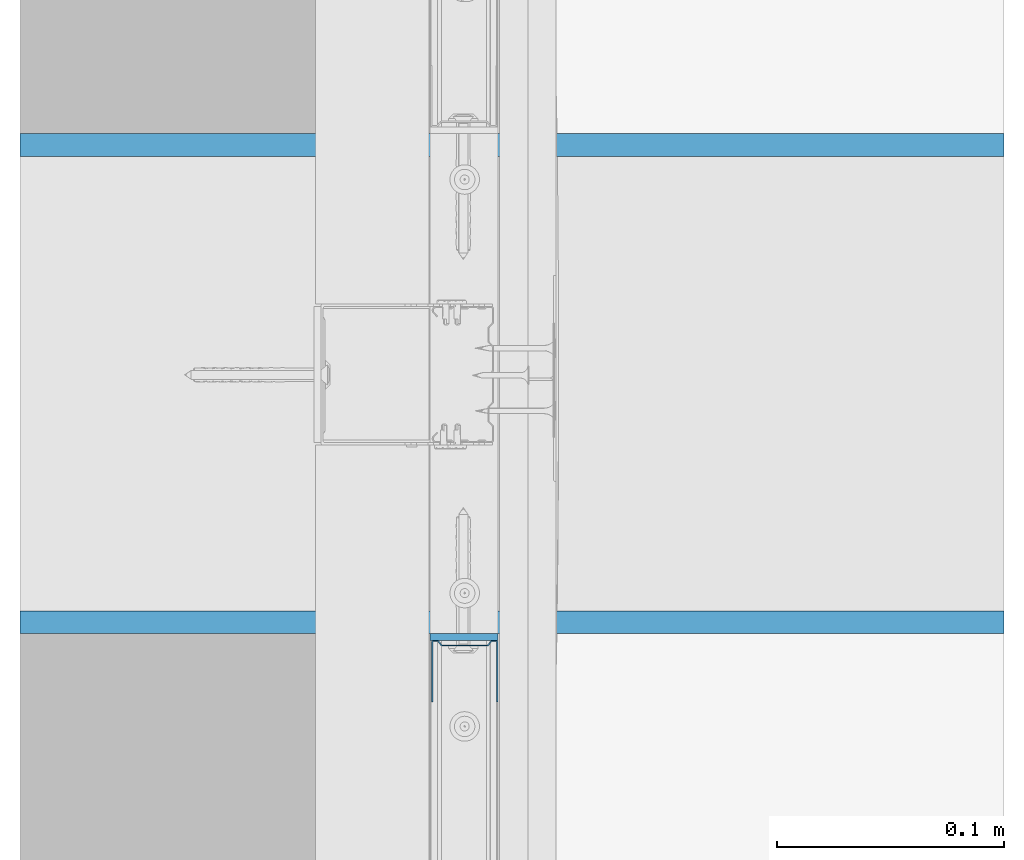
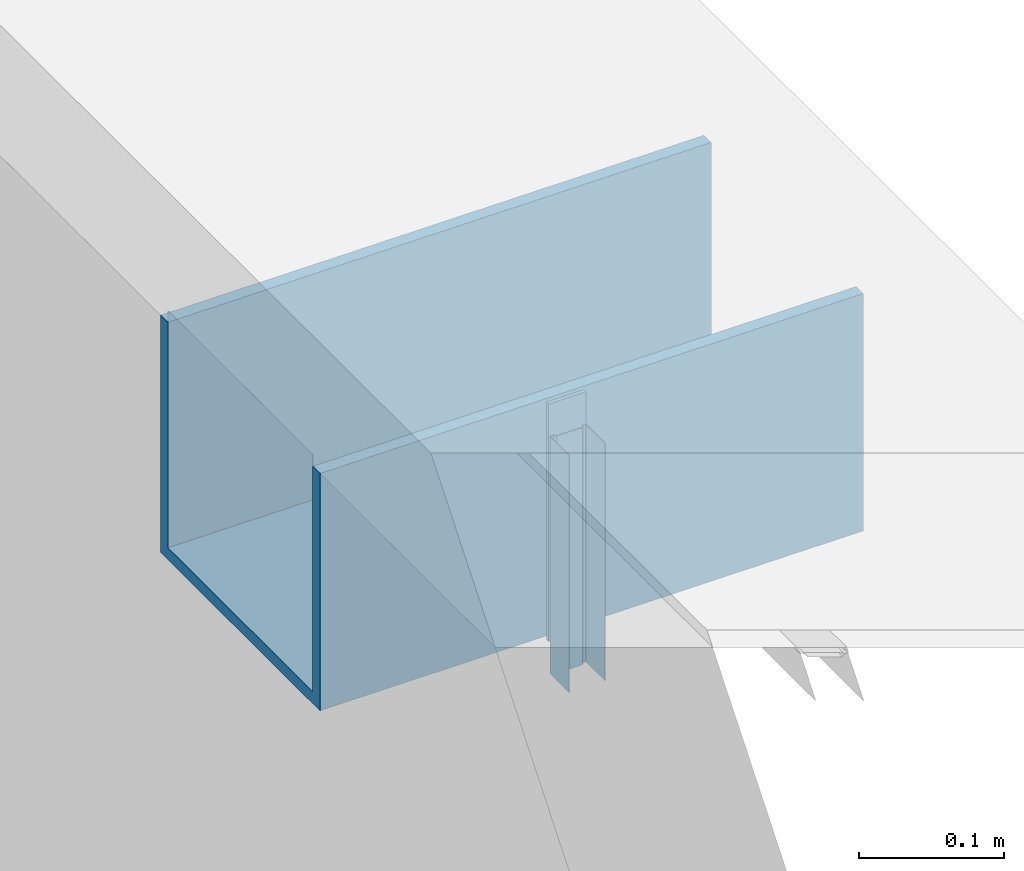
# One storey, part 8 of 67: 3 walls.
"""IFC2X3 building model written with IfcOpenShell, lengths in millimetres."""

from ifc_helpers import new_model, si_unit, frame, origin_with_axes, place, context, subcontext, project, spatial, faceted_brep, material, type_object, element, save


model = new_model("IFC2X3")

# Units and contexts
model_context = context("Model", 3, world=origin_with_axes())
body_context = subcontext(model_context, "Body", "Model", "MODEL_VIEW")
ifc_project = project(units=[si_unit("LENGTHUNIT", "METRE", prefix="MILLI"), si_unit("AREAUNIT", "SQUARE_METRE"), si_unit("VOLUMEUNIT", "CUBIC_METRE")], contexts=[model_context])

# Site, building, storey
site_placement = place(None, frame((2152.14102611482, 674.9749105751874, 57.61556563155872), z_axis=(0.0, 0.0, 1.0), x_axis=(-1.1102230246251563e-16, 1.0, 0.0)))
site = spatial("IfcSite", under=ifc_project, at=site_placement, Name="Default Site", CompositionType="ELEMENT")
building_placement = place(site_placement, origin_with_axes())
building = spatial("IfcBuilding", under=site, at=building_placement, Name="Default Building", CompositionType="ELEMENT")
storey_placement = place(building_placement, origin_with_axes())
storey = spatial("IfcBuildingStorey", under=building, at=storey_placement, Name="Default Building Storey", CompositionType="ELEMENT", Elevation=57.61556563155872)

# Walls
ifc_material_1 = material(Name="Undefined9")
wall_type_1 = type_object("IfcWallType", Name="Profil RIGIPS UD 30 GypSerra®/Ultrastil®#5", PredefinedType="NOTDEFINED")
wall_1_placement = place(storey_placement, frame((2835.0000862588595, 472.4603158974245, -435.7900374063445), z_axis=(-1.0, 6.86003722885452e-13, -6.065981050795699e-14), x_axis=(-6.065981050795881e-14, -2.646298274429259e-15, 1.0)))
element("IfcWall", 1, at=wall_1_placement, inside=storey, type_object=wall_type_1, material=ifc_material_1, Name="Profil RIGIPS UD 30 GypSerra®/Ultrastil®", context=body_context, shape_type="Brep", body=[
    faceted_brep([(2926.1740592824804, 1469.9159860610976, 140.9749984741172), (2926.1740592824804, 1469.3660736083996, 140.97499847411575), (2926.174059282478, 1469.3660736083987, 114.77500200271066), (2926.174059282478, 1469.3758487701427, 114.64985460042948), (2926.174059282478, 1469.405174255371, 114.52778428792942), (2926.174059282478, 1469.4532155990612, 114.41180855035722), (2926.174059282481, 1469.5187807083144, 114.30477350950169), (2926.174059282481, 1469.6003198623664, 114.20931667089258), (2926.1740592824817, 1469.6958065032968, 114.12778496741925), (2926.1740592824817, 1469.8028564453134, 114.06219750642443), (2926.1740592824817, 1469.9188470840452, 114.01415616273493), (2926.1740592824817, 1470.0409173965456, 113.98485302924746), (2926.1740592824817, 1470.1660871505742, 113.97500336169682), (2926.1740592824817, 1472.015976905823, 113.97500336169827), (2926.1740592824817, 1472.163558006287, 113.98871988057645), (2926.1740592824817, 1472.3060131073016, 114.02940750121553), (2926.1740592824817, 1472.4385738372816, 114.09565806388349), (2926.174059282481, 1472.5565910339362, 114.18521404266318), (2926.1740592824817, 1472.6560115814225, 114.29499834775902), (2926.1740592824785, 1473.6760854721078, 115.65499752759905), (2926.1740592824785, 1473.7755060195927, 115.76478183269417), (2926.1740592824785, 1473.8935232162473, 115.85433781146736), (2926.1740592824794, 1474.026083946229, 115.92059582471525), (2926.1740592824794, 1474.1685390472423, 115.96128344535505), (2926.1740592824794, 1474.3160009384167, 115.97499996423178), (2926.1740592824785, 1493.6159849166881, 115.97499996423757), (2926.1740592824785, 1493.7635660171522, 115.96128344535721), (2926.1740592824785, 1493.9060211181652, 115.9205958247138), (2926.1740592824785, 1494.038581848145, 115.85433781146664), (2926.1740592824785, 1494.1565990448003, 115.76478183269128), (2926.1740592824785, 1494.2560195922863, 115.65499752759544), (2926.1740592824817, 1495.2759742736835, 114.29499834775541), (2926.1740592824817, 1495.3755140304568, 114.18521404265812), (2926.1740592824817, 1495.4935312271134, 114.09565806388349), (2926.1740592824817, 1495.626091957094, 114.02940750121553), (2926.1740592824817, 1495.7685470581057, 113.98871988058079), (2926.1740592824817, 1495.9160089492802, 113.97500336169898), (2926.1740592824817, 1497.7660179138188, 113.97500336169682), (2926.1740592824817, 1497.8911876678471, 113.98485302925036), (2926.1740592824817, 1498.0132579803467, 114.01415616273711), (2926.1740592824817, 1498.1292486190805, 114.06219750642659), (2926.1740592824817, 1498.2362985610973, 114.12778496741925), (2926.1740592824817, 1498.3316659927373, 114.20931667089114), (2926.1740592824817, 1498.4132051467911, 114.3047735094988), (2926.1740592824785, 1498.478889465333, 114.41180855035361), (2926.1740592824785, 1498.5269308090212, 114.52778428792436), (2926.1740592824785, 1498.556137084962, 114.64985460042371), (2926.174059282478, 1498.566031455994, 114.77500200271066), (2926.174059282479, 1498.5660314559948, 140.97499847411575), (2926.174059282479, 1498.0159997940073, 140.97499847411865), (2926.174059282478, 1498.0159997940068, 114.77500200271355), (2926.1740592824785, 1498.0129003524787, 114.7358939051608), (2926.1740592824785, 1498.003840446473, 114.69774693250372), (2926.1740592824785, 1497.98882007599, 114.6614998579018), (2926.1740592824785, 1497.9683160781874, 114.62805420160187), (2926.1740592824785, 1497.9428052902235, 114.59822207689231), (2926.1740592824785, 1497.9130029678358, 114.57274854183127), (2926.1740592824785, 1497.8795051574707, 114.55225199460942), (2926.1740592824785, 1497.8432655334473, 114.53723907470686), (2926.1740592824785, 1497.8051185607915, 114.52807486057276), (2926.1740592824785, 1497.7660179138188, 114.5249977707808), (2926.1740592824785, 1495.9160089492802, 114.52499777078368), (2926.1740592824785, 1495.869874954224, 114.5292893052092), (2926.1740592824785, 1495.8254098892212, 114.5419999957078), (2926.1740592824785, 1495.7840442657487, 114.56270515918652), (2926.1740592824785, 1495.7470893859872, 114.5906895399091), (2926.1740592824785, 1495.715975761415, 114.62499946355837), (2926.1740592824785, 1494.6960210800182, 115.98499864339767), (2926.1740592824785, 1494.5281744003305, 116.17025732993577), (2926.1740592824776, 1494.328975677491, 116.32138490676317), (2926.1740592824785, 1494.1053390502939, 116.43319576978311), (2926.1740592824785, 1493.8650131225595, 116.50185286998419), (2926.1740592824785, 1493.6159849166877, 116.52500182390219), (2926.174059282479, 1474.3160009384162, 116.52500182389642), (2926.174059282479, 1474.0670919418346, 116.50185286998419), (2926.174059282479, 1473.8266468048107, 116.43319576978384), (2926.174059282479, 1473.6031293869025, 116.32138490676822), (2926.174059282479, 1473.4039306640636, 116.17025732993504), (2926.1740592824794, 1473.2360839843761, 115.98499864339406), (2926.174059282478, 1472.21601009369, 114.6249994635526), (2926.174059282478, 1472.1848964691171, 114.59068953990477), (2926.174059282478, 1472.1480607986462, 114.56270515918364), (2926.174059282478, 1472.1066951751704, 114.54199999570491), (2926.174059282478, 1472.062110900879, 114.52928930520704), (2926.174059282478, 1472.0159769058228, 114.52499777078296), (2926.174059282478, 1470.166087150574, 114.5249977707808), (2926.174059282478, 1470.1268672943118, 114.52807486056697), (2926.174059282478, 1470.0887203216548, 114.53723907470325), (2926.174059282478, 1470.0524806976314, 114.55225199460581), (2926.174059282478, 1470.0191020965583, 114.57274854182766), (2926.174059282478, 1469.9892997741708, 114.59822207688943), (2926.174059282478, 1469.9637889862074, 114.62805420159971), (2926.174059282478, 1469.9432849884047, 114.66149985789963), (2926.174059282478, 1469.9282646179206, 114.697746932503), (2926.174059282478, 1469.9190855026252, 114.73589390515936), (2926.174059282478, 1469.9159860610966, 114.77500200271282), (2726.1740592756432, 1469.3660736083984, 114.77500200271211), (2726.174059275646, 1469.3660736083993, 140.9749984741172), (2726.174059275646, 1469.915986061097, 140.9749984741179), (2726.1740592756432, 1469.9159860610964, 114.77500200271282), (2726.1740592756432, 1469.9190855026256, 114.73589390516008), (2726.1740592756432, 1469.9282646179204, 114.697746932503), (2726.1740592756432, 1469.9432849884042, 114.66149985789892), (2726.1740592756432, 1469.9637889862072, 114.62805420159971), (2726.1740592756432, 1469.9892997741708, 114.59822207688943), (2726.1740592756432, 1470.0191020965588, 114.57274854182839), (2726.1740592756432, 1470.052480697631, 114.55225199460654), (2726.1740592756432, 1470.0887203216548, 114.53723907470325), (2726.1740592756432, 1470.126867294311, 114.52807486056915), (2726.1740592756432, 1470.1660871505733, 114.52499777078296), (2726.1740592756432, 1472.015976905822, 114.52499777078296), (2726.1740592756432, 1472.0621109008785, 114.52928930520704), (2726.1740592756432, 1472.1066951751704, 114.54199999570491), (2726.1740592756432, 1472.1480607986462, 114.56270515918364), (2726.1740592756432, 1472.1848964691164, 114.59068953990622), (2726.1740592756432, 1472.2160100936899, 114.62499946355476), (2726.1740592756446, 1473.236083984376, 115.98499864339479), (2726.174059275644, 1473.403930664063, 116.17025732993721), (2726.1740592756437, 1473.6031293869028, 116.32138490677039), (2726.1740592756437, 1473.8266468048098, 116.43319576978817), (2726.1740592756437, 1474.0670919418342, 116.5018528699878), (2726.1740592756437, 1474.3160009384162, 116.52500182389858), (2726.174059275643, 1493.6159849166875, 116.52500182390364), (2726.174059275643, 1493.8650131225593, 116.50185286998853), (2726.174059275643, 1494.1053390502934, 116.43319576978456), (2726.1740592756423, 1494.328975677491, 116.32138490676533), (2726.1740592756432, 1494.5281744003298, 116.17025732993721), (2726.174059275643, 1494.6960210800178, 115.98499864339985), (2726.174059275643, 1495.7159757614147, 114.62499946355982), (2726.174059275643, 1495.747089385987, 114.59068953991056), (2726.174059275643, 1495.784044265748, 114.56270515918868), (2726.174059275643, 1495.8254098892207, 114.54199999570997), (2726.174059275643, 1495.8698749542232, 114.52928930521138), (2726.174059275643, 1495.9160089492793, 114.5249977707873), (2726.174059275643, 1497.766017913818, 114.52499777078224), (2726.174059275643, 1497.8051185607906, 114.5280748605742), (2726.174059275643, 1497.8432655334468, 114.53723907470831), (2726.174059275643, 1497.8795051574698, 114.55225199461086), (2726.174059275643, 1497.9130029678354, 114.57274854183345), (2726.174059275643, 1497.9428052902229, 114.59822207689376), (2726.174059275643, 1497.9683160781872, 114.62805420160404), (2726.174059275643, 1497.9888200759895, 114.66149985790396), (2726.174059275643, 1498.0038404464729, 114.69774693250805), (2726.174059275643, 1498.0129003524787, 114.73589390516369), (2726.174059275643, 1498.015999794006, 114.77500200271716), (2726.1740592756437, 1498.015999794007, 140.97499847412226), (2726.1740592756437, 1498.5660314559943, 140.9749984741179), (2726.174059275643, 1498.5660314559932, 114.77500200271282), (2726.174059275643, 1498.5561370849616, 114.64985460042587), (2726.174059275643, 1498.5269308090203, 114.52778428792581), (2726.174059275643, 1498.4788894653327, 114.41180855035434), (2726.174059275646, 1498.4132051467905, 114.3047735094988), (2726.174059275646, 1498.3316659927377, 114.20931667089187), (2726.174059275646, 1498.2362985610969, 114.1277849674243), (2726.174059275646, 1498.12924861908, 114.0621975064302), (2726.1740592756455, 1498.013257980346, 114.01415616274), (2726.1740592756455, 1497.8911876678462, 113.98485302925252), (2726.1740592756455, 1497.7660179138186, 113.97500336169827), (2726.1740592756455, 1495.91600894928, 113.97500336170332), (2726.1740592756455, 1495.7685470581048, 113.98871988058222), (2726.1740592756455, 1495.6260919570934, 114.02940750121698), (2726.174059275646, 1495.4935312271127, 114.09565806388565), (2726.174059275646, 1495.375514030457, 114.18521404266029), (2726.174059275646, 1495.2759742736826, 114.29499834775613), (2726.174059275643, 1494.2560195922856, 115.65499752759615), (2726.174059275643, 1494.1565990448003, 115.76478183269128), (2726.174059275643, 1494.038581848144, 115.85433781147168), (2726.174059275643, 1493.9060211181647, 115.92059582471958), (2726.174059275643, 1493.7635660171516, 115.96128344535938), (2726.174059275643, 1493.6159849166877, 115.9749999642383), (2726.1740592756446, 1474.3160009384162, 115.97499996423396), (2726.1740592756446, 1474.1685390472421, 115.96128344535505), (2726.1740592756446, 1474.0260839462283, 115.9205958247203), (2726.1740592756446, 1473.8935232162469, 115.85433781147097), (2726.1740592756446, 1473.775506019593, 115.76478183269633), (2726.1740592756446, 1473.6760854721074, 115.65499752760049), (2726.174059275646, 1472.6560115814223, 114.29499834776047), (2726.174059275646, 1472.556591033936, 114.18521404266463), (2726.174059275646, 1472.4385738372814, 114.09565806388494), (2726.174059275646, 1472.3060131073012, 114.02940750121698), (2726.1740592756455, 1472.1635580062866, 113.98871988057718), (2726.1740592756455, 1472.015976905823, 113.9750033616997), (2726.1740592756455, 1470.166087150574, 113.97500336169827), (2726.1740592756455, 1470.0409173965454, 113.98485302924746), (2726.1740592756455, 1469.9188470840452, 114.01415616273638), (2726.174059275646, 1469.802856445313, 114.06219750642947), (2726.174059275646, 1469.6958065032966, 114.12778496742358), (2726.174059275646, 1469.6003198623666, 114.20931667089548), (2726.174059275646, 1469.5187807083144, 114.30477350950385), (2726.1740592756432, 1469.4532155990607, 114.41180855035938), (2726.1740592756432, 1469.4051742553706, 114.52778428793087), (2726.1740592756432, 1469.3758487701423, 114.64985460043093)], [[[0, 1, 2, 3, 4, 5, 6, 7, 8, 9, 10, 11, 12, 13, 14, 15, 16, 17, 18, 19, 20, 21, 22, 23, 24, 25, 26, 27, 28, 29, 30, 31, 32, 33, 34, 35, 36, 37, 38, 39, 40, 41, 42, 43, 44, 45, 46, 47, 48, 49, 50, 51, 52, 53, 54, 55, 56, 57, 58, 59, 60, 61, 62, 63, 64, 65, 66, 67, 68, 69, 70, 71, 72, 73, 74, 75, 76, 77, 78, 79, 80, 81, 82, 83, 84, 85, 86, 87, 88, 89, 90, 91, 92, 93, 94, 95]], [[96, 97, 98, 99, 100, 101, 102, 103, 104, 105, 106, 107, 108, 109, 110, 111, 112, 113, 114, 115, 116, 117, 118, 119, 120, 121, 122, 123, 124, 125, 126, 127, 128, 129, 130, 131, 132, 133, 134, 135, 136, 137, 138, 139, 140, 141, 142, 143, 144, 145, 146, 147, 148, 149, 150, 151, 152, 153, 154, 155, 156, 157, 158, 159, 160, 161, 162, 163, 164, 165, 166, 167, 168, 169, 170, 171, 172, 173, 174, 175, 176, 177, 178, 179, 180, 181, 182, 183, 184, 185, 186, 187, 188, 189, 190, 191]], [[23, 171, 170, 24]], [[22, 172, 171, 23]], [[175, 174, 20, 19]], [[172, 22, 21, 173]], [[20, 174, 173, 21]], [[24, 170, 169, 25]], [[29, 165, 164, 30]], [[165, 29, 28, 166]], [[27, 167, 166, 28]], [[169, 168, 26, 25]], [[26, 168, 167, 27]], [[30, 164, 163, 31]], [[35, 159, 158, 36]], [[34, 160, 159, 35]], [[33, 32, 162, 161]], [[161, 160, 34, 33]], [[163, 162, 32, 31]], [[36, 158, 157, 37]], [[46, 45, 149, 148]], [[148, 147, 47, 46]], [[44, 150, 149, 45]], [[43, 42, 152, 151]], [[151, 150, 44, 43]], [[41, 40, 154, 153]], [[153, 152, 42, 41]], [[39, 155, 154, 40]], [[38, 37, 157, 156]], [[156, 155, 39, 38]], [[47, 147, 146, 48]], [[48, 146, 145, 49]], [[49, 145, 144, 50]], [[134, 60, 59, 135]], [[58, 136, 135, 59]], [[57, 137, 136, 58]], [[137, 57, 56, 138]], [[55, 139, 138, 56]], [[139, 55, 54, 140]], [[53, 141, 140, 54]], [[52, 142, 141, 53]], [[142, 52, 51, 143]], [[50, 144, 143, 51]], [[60, 134, 133, 61]], [[65, 129, 128, 66]], [[129, 65, 64, 130]], [[63, 131, 130, 64]], [[133, 132, 62, 61]], [[62, 132, 131, 63]], [[66, 128, 127, 67]], [[71, 123, 122, 72]], [[70, 69, 125, 124]], [[124, 123, 71, 70]], [[68, 126, 125, 69]], [[127, 126, 68, 67]], [[72, 122, 121, 73]], [[77, 117, 116, 78]], [[76, 118, 117, 77]], [[75, 74, 120, 119]], [[119, 118, 76, 75]], [[121, 120, 74, 73]], [[78, 116, 115, 79]], [[83, 111, 110, 84]], [[82, 112, 111, 83]], [[115, 114, 80, 79]], [[112, 82, 81, 113]], [[80, 114, 113, 81]], [[84, 110, 109, 85]], [[99, 95, 94, 100]], [[93, 101, 100, 94]], [[92, 102, 101, 93]], [[102, 92, 91, 103]], [[90, 104, 103, 91]], [[104, 90, 89, 105]], [[88, 106, 105, 89]], [[87, 107, 106, 88]], [[107, 87, 86, 108]], [[85, 109, 108, 86]], [[95, 99, 98, 0]], [[0, 98, 97, 1]], [[1, 97, 96, 2]], [[11, 10, 184, 183]], [[183, 182, 12, 11]], [[9, 185, 184, 10]], [[6, 5, 189, 188]], [[7, 6, 188, 187]], [[8, 7, 187, 186]], [[186, 185, 9, 8]], [[4, 190, 189, 5]], [[3, 2, 96, 191]], [[191, 190, 4, 3]], [[12, 182, 181, 13]], [[17, 177, 176, 18]], [[16, 15, 179, 178]], [[178, 177, 17, 16]], [[14, 180, 179, 15]], [[181, 180, 14, 13]], [[18, 176, 175, 19]]]),
])
ifc_material_2 = material(Name="Undefined13")
wall_type_2 = type_object("IfcWallType", Name="Taśma uszczelniająca piankowa RIGIPS#8", PredefinedType="NOTDEFINED")
wall_2_placement = place(storey_placement, frame((2610.050085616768, 472.86038227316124, 5802.553796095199), z_axis=(1.0, 6.860037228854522e-13, 6.156186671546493e-14), x_axis=(6.156186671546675e-14, -2.6462982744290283e-15, -1.0)))
element("IfcWall", 2, at=wall_2_placement, inside=storey, type_object=wall_type_2, material=ifc_material_2, Name="Taśma uszczelniająca piankowa RIGIPS", context=body_context, shape_type="Brep", body=[
    faceted_brep([(3285.1244962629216, 1498.9659786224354, 113.97500336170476), (3285.1244962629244, 1498.9659786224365, 110.97499728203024), (3285.1244962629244, 1468.966007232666, 110.9749972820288), (3285.1244962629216, 1468.9660072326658, 113.97500336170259), (3485.1593678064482, 1498.9659786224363, 110.9749972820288), (3485.1593678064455, 1498.965978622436, 113.97500336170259), (3485.1593678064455, 1468.9660072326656, 113.97500336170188), (3485.1593678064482, 1468.9660072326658, 110.97499728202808)], [[[0, 1, 2, 3]], [[4, 5, 6, 7]], [[5, 0, 3, 6]], [[6, 3, 2, 7]], [[7, 2, 1, 4]], [[4, 1, 0, 5]]]),
])
ifc_material_3 = material(Name="M06_Steel_Smoke")
wall_type_3 = type_object("IfcWallType", Name="Profil", PredefinedType="NOTDEFINED")
wall_3_placement = place(storey_placement, frame((2947.0405816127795, 2049.1410261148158, 4924.404417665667), z_axis=(-1.0, 7.216449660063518e-16, 8.326672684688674e-17), x_axis=(8.326672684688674e-17, -4.622231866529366e-32, 1.0)))
element("IfcWall", 3, at=wall_3_placement, inside=storey, type_object=wall_type_3, material=ifc_material_3, Name="Profil", context=body_context, shape_type="Brep", body=[
    faceted_brep([(-2404.009983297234, 103.00000000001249, 3.0000004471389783), (-2404.009983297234, 103.00000000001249, 12.99999999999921), (-2404.009983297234, -330.0000000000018, 12.99999999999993), (-2404.009983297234, -330.0000000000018, 3.0000004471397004), (-2604.0099832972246, 103.00000000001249, 3.0000004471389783), (-2604.009983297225, 103.00000000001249, 213.01549263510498), (-2594.009983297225, 103.00000000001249, 213.01549263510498), (-2594.0099832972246, 103.00000000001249, 12.99999999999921), (-2594.0099832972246, -330.0000000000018, 12.99999999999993), (-2594.009983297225, -330.0000000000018, 213.01549263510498), (-2404.0099832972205, -330.0000000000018, 213.01549263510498), (-2404.0099832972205, -330.0000000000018, 223.01549263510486), (-2604.009983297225, -330.0000000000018, 223.01549263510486), (-2604.0099832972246, -330.0000000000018, 3.0000004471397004), (-2604.009983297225, 103.00000000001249, 223.01549263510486), (-2404.0099832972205, 103.00000000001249, 223.01549263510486), (-2404.0099832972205, 103.00000000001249, 213.01549263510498)], [[[0, 1, 2, 3]], [[0, 4, 5, 6, 7, 1]], [[2, 1, 7, 8]], [[8, 9, 10, 11, 12, 13, 3, 2]], [[3, 13, 4, 0]], [[13, 12, 14, 5, 4]], [[8, 7, 6, 9]], [[12, 11, 15, 14]], [[6, 5, 14, 15, 16]], [[10, 16, 15, 11]], [[9, 6, 16, 10]]]),
])

save(model, "model.ifc")
